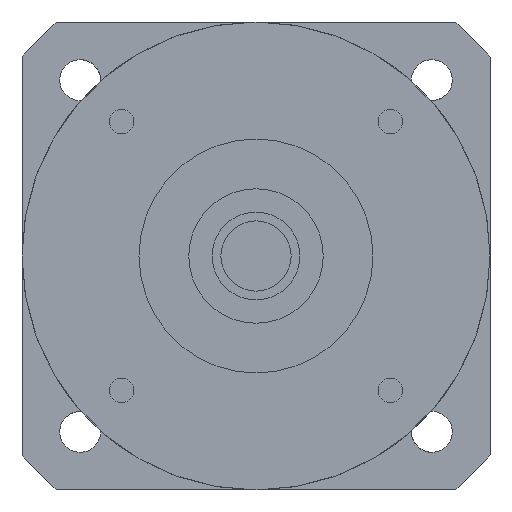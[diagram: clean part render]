
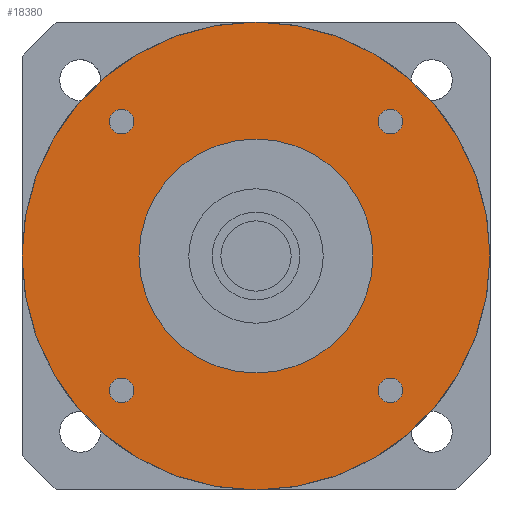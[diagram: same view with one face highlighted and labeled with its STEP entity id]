
A CAD part, left-side view. The second image highlights one B-rep face of the part: STEP entity #18380.
In plain terms, the highlighted planar face has unit normal (-1, 0, 0) as drawn and (0, 0, -1) by its records, which use the part's own axes.
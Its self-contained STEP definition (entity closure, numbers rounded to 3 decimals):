
#14250=CARTESIAN_POINT('',(-25.081,-22.981,-42.));
#14260=VERTEX_POINT('',#14250);
#14440=CARTESIAN_POINT('',(-20.881,-22.981,-42.));
#14450=VERTEX_POINT('',#14440);
#14480=CARTESIAN_POINT('',(-22.981,-22.981,-42.));
#14490=DIRECTION('',(0.,0.,-1.));
#14500=DIRECTION('',(1.,0.,0.));
#14510=AXIS2_PLACEMENT_3D('',#14480,#14490,#14500);
#14520=CIRCLE('',#14510,2.1);
#14530=EDGE_CURVE('',#14260,#14450,#14520,.T.);
#17400=CARTESIAN_POINT('',(-40.,0.,-42.));
#17410=VERTEX_POINT('',#17400);
#17440=CARTESIAN_POINT('',(0.,0.,-42.));
#17450=DIRECTION('',(0.,0.,-1.));
#17460=DIRECTION('',(1.,0.,0.));
#17470=AXIS2_PLACEMENT_3D('',#17440,#17450,#17460);
#17480=CIRCLE('',#17470,40.);
#17490=CARTESIAN_POINT('',(40.,0.,-42.));
#17500=VERTEX_POINT('',#17490);
#17510=EDGE_CURVE('',#17410,#17500,#17480,.T.);
#17630=CARTESIAN_POINT('',(0.,0.,-42.));
#17640=DIRECTION('',(0.,0.,1.));
#17650=DIRECTION('',(1.,0.,0.));
#17660=AXIS2_PLACEMENT_3D('',#17630,#17640,#17650);
#17670=PLANE('',#17660);
#17680=CARTESIAN_POINT('',(-22.981,22.981,-42.));
#17690=DIRECTION('',(0.,0.,-1.));
#17700=DIRECTION('',(1.,0.,0.));
#17710=AXIS2_PLACEMENT_3D('',#17680,#17690,#17700);
#17720=CIRCLE('',#17710,2.1);
#17730=CARTESIAN_POINT('',(-20.881,22.981,-42.));
#17740=VERTEX_POINT('',#17730);
#17750=CARTESIAN_POINT('',(-25.081,22.981,-42.));
#17760=VERTEX_POINT('',#17750);
#17770=EDGE_CURVE('',#17740,#17760,#17720,.T.);
#17780=ORIENTED_EDGE('',*,*,#17770,.F.);
#17790=EDGE_CURVE('',#17760,#17740,#17720,.T.);
#17800=ORIENTED_EDGE('',*,*,#17790,.F.);
#17810=EDGE_LOOP('',(#17800,#17780));
#17820=FACE_BOUND('',#17810,.T.);
#17830=CARTESIAN_POINT('',(22.981,22.981,-42.));
#17840=DIRECTION('',(0.,0.,-1.));
#17850=DIRECTION('',(1.,0.,0.));
#17860=AXIS2_PLACEMENT_3D('',#17830,#17840,#17850);
#17870=CIRCLE('',#17860,2.1);
#17880=CARTESIAN_POINT('',(25.081,22.981,-42.));
#17890=VERTEX_POINT('',#17880);
#17900=CARTESIAN_POINT('',(20.881,22.981,-42.));
#17910=VERTEX_POINT('',#17900);
#17920=EDGE_CURVE('',#17890,#17910,#17870,.T.);
#17930=ORIENTED_EDGE('',*,*,#17920,.F.);
#17940=EDGE_CURVE('',#17910,#17890,#17870,.T.);
#17950=ORIENTED_EDGE('',*,*,#17940,.F.);
#17960=EDGE_LOOP('',(#17950,#17930));
#17970=FACE_BOUND('',#17960,.T.);
#17980=CARTESIAN_POINT('',(22.981,-22.981,-42.));
#17990=DIRECTION('',(0.,0.,-1.));
#18000=DIRECTION('',(1.,0.,0.));
#18010=AXIS2_PLACEMENT_3D('',#17980,#17990,#18000);
#18020=CIRCLE('',#18010,2.1);
#18030=CARTESIAN_POINT('',(25.081,-22.981,-42.));
#18040=VERTEX_POINT('',#18030);
#18050=CARTESIAN_POINT('',(20.881,-22.981,-42.));
#18060=VERTEX_POINT('',#18050);
#18070=EDGE_CURVE('',#18040,#18060,#18020,.T.);
#18080=ORIENTED_EDGE('',*,*,#18070,.F.);
#18090=EDGE_CURVE('',#18060,#18040,#18020,.T.);
#18100=ORIENTED_EDGE('',*,*,#18090,.F.);
#18110=EDGE_LOOP('',(#18100,#18080));
#18120=FACE_BOUND('',#18110,.T.);
#18130=CARTESIAN_POINT('',(0.,0.,
-42.));
#18140=DIRECTION('',(0.,0.,1.));
#18150=DIRECTION('',(-1.,0.,0.));
#18160=AXIS2_PLACEMENT_3D('',#18130,#18140,#18150);
#18170=CIRCLE('',#18160,20.);
#18180=CARTESIAN_POINT('',(-20.,0.,-42.));
#18190=VERTEX_POINT('',#18180);
#18200=CARTESIAN_POINT('',(20.,0.,-42.));
#18210=VERTEX_POINT('',#18200);
#18220=EDGE_CURVE('',#18190,#18210,#18170,.T.);
#18230=ORIENTED_EDGE('',*,*,#18220,.T.);
#18240=EDGE_CURVE('',#18210,#18190,#18170,.T.);
#18250=ORIENTED_EDGE('',*,*,#18240,.T.);
#18260=EDGE_LOOP('',(#18250,#18230));
#18270=FACE_BOUND('',#18260,.T.);
#18280=EDGE_CURVE('',#14450,#14260,#14520,.T.);
#18290=ORIENTED_EDGE('',*,*,#18280,.F.);
#18300=ORIENTED_EDGE('',*,*,#14530,.F.);
#18310=EDGE_LOOP('',(#18300,#18290));
#18320=FACE_BOUND('',#18310,.T.);
#18330=EDGE_CURVE('',#17500,#17410,#17480,.T.);
#18340=ORIENTED_EDGE('',*,*,#18330,.T.);
#18350=ORIENTED_EDGE('',*,*,#17510,.T.);
#18360=EDGE_LOOP('',(#18350,#18340));
#18370=FACE_OUTER_BOUND('',#18360,.T.);
#18380=ADVANCED_FACE('',(#17820,#17970,#18120,#18270,#18320,#18370),
#17670,.F.);
